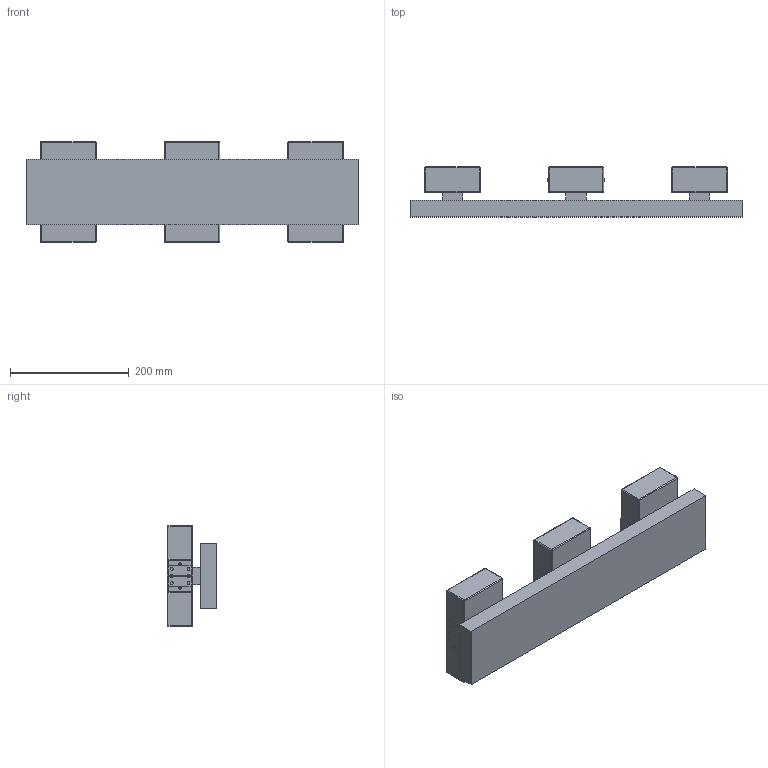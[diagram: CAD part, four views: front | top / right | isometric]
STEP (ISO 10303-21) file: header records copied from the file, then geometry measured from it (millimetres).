
FILE_DESCRIPTION(('Open CASCADE Model'),'2;1');
FILE_NAME('Open CASCADE Shape Model','2026-09-10T17:41:05',('Author'),( 'Open CASCADE'),'Open CASCADE STEP processor 7.9','Open CASCADE 7.9' ,'Unknown');
FILE_SCHEMA(('AUTOMOTIVE_DESIGN { 1 0 10303 214 1 1 1 1 }'));
Length unit declared in the file: millimetre
Products named in the file (26): CAN23110-W3_CATALOG_PHOTO_REFERENCE; backplate; support_0; center_band_0; ice_glass_lower_0; ice_glass_upper_0; glass_screw_0_left_lower; glass_screw_0_left_upper; glass_screw_0_right_lower; glass_screw_0_right_upper; support_1; center_band_1; ice_glass_lower_1; ice_glass_upper_1; glass_screw_1_left_lower; glass_screw_1_left_upper; glass_screw_1_right_lower; glass_screw_1_right_upper; support_2; center_band_2; ice_glass_lower_2; ice_glass_upper_2; glass_screw_2_left_lower; glass_screw_2_left_upper; glass_screw_2_right_lower; glass_screw_2_right_upper
Assembly tree (25 placements, depth 2):
  CAN23110-W3_CATALOG_PHOTO_REFERENCE
    backplate
    support_0
    center_band_0
    ice_glass_lower_0
    ice_glass_upper_0
    glass_screw_0_left_lower
    glass_screw_0_left_upper
    glass_screw_0_right_lower
    glass_screw_0_right_upper
    support_1
    center_band_1
    ice_glass_lower_1
    ice_glass_upper_1
    glass_screw_1_left_lower
    glass_screw_1_left_upper
    glass_screw_1_right_lower
    glass_screw_1_right_upper
    support_2
    center_band_2
    ice_glass_lower_2
    ice_glass_upper_2
    glass_screw_2_left_lower
    glass_screw_2_left_upper
    glass_screw_2_right_lower
    glass_screw_2_right_upper
Bounding box: 559 x 84 x 170 mm (x, y, z)
Volume: 3441822.2 mm3; surface area: 431206.6 mm2
Topology: 25 solids, 25 shells, 681 faces, 1347 edges, 875 vertices
Faces by surface type: plane 330, sphere 219, cylinder 132
Full cylindrical faces by diameter (mm): 2.4 x12, 2.9 x12, 4.8 x12
Entity records: 42897 total; most frequent: CARTESIAN_POINT 13984, DIRECTION 5551, LINE 3000, VECTOR 3000, ORIENTED_EDGE 2598, PCURVE 2598, DEFINITIONAL_REPRESENTATION 2598, EDGE_CURVE 1299
